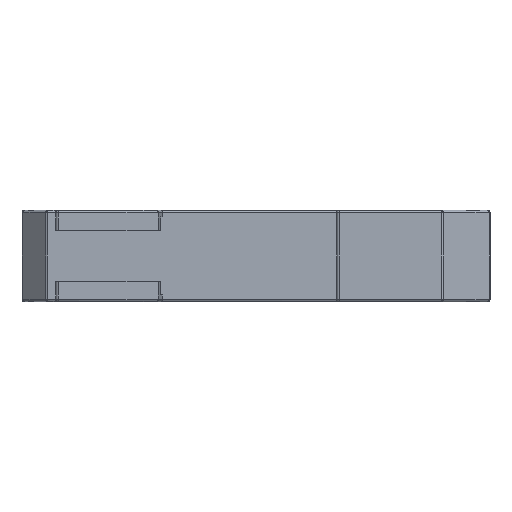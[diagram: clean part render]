
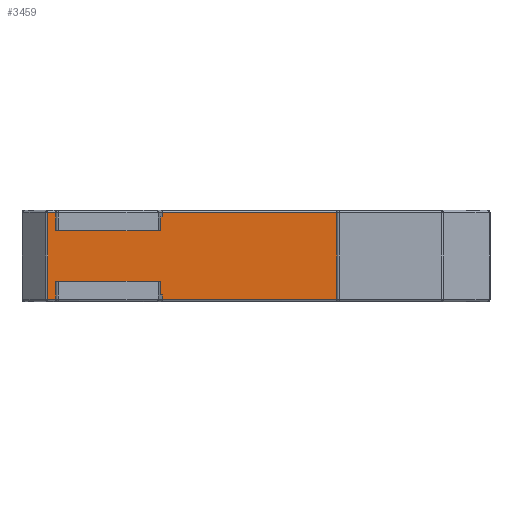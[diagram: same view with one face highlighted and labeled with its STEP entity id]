
A CAD part, front view. The second image highlights one B-rep face of the part: STEP entity #3459.
In plain terms, the highlighted planar face has unit normal (0, -1, 0).
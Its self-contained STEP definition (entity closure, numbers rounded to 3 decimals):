
#338=FACE_OUTER_BOUND('',#569,.T.);
#569=EDGE_LOOP('',(#2825,#2826,#2827,#2828,#2829,#2830,#2831,#2832,#2833,
#2834,#2835,#2836));
#973=LINE('',#5627,#1281);
#975=LINE('',#5639,#1283);
#1051=LINE('',#5860,#1359);
#1054=LINE('',#5864,#1362);
#1055=LINE('',#5867,#1363);
#1069=LINE('',#5899,#1377);
#1070=LINE('',#5901,#1378);
#1071=LINE('',#5903,#1379);
#1072=LINE('',#5905,#1380);
#1073=LINE('',#5907,#1381);
#1074=LINE('',#5909,#1382);
#1075=LINE('',#5910,#1383);
#1281=VECTOR('',#4470,10.);
#1283=VECTOR('',#4486,10.);
#1359=VECTOR('',#4732,10.);
#1362=VECTOR('',#4737,10.);
#1363=VECTOR('',#4742,10.);
#1377=VECTOR('',#4774,10.);
#1378=VECTOR('',#4775,10.);
#1379=VECTOR('',#4776,10.);
#1380=VECTOR('',#4777,10.);
#1381=VECTOR('',#4778,10.);
#1382=VECTOR('',#4779,10.);
#1383=VECTOR('',#4780,10.);
#1617=VERTEX_POINT('',#5624);
#1618=VERTEX_POINT('',#5626);
#1619=VERTEX_POINT('',#5630);
#1621=VERTEX_POINT('',#5638);
#1680=VERTEX_POINT('',#5857);
#1681=VERTEX_POINT('',#5859);
#1690=VERTEX_POINT('',#5898);
#1691=VERTEX_POINT('',#5900);
#1692=VERTEX_POINT('',#5902);
#1693=VERTEX_POINT('',#5904);
#1694=VERTEX_POINT('',#5906);
#1695=VERTEX_POINT('',#5908);
#1964=EDGE_CURVE('',#1617,#1618,#973,.T.);
#1970=EDGE_CURVE('',#1619,#1621,#975,.T.);
#2083=EDGE_CURVE('',#1681,#1680,#1051,.T.);
#2086=EDGE_CURVE('',#1617,#1681,#1054,.T.);
#2087=EDGE_CURVE('',#1680,#1621,#1055,.T.);
#2103=EDGE_CURVE('',#1690,#1619,#1069,.T.);
#2104=EDGE_CURVE('',#1691,#1690,#1070,.T.);
#2105=EDGE_CURVE('',#1691,#1692,#1071,.T.);
#2106=EDGE_CURVE('',#1692,#1693,#1072,.T.);
#2107=EDGE_CURVE('',#1693,#1694,#1073,.T.);
#2108=EDGE_CURVE('',#1695,#1694,#1074,.T.);
#2109=EDGE_CURVE('',#1695,#1618,#1075,.T.);
#2825=ORIENTED_EDGE('',*,*,#2103,.F.);
#2826=ORIENTED_EDGE('',*,*,#2104,.F.);
#2827=ORIENTED_EDGE('',*,*,#2105,.T.);
#2828=ORIENTED_EDGE('',*,*,#2106,.T.);
#2829=ORIENTED_EDGE('',*,*,#2107,.T.);
#2830=ORIENTED_EDGE('',*,*,#2108,.F.);
#2831=ORIENTED_EDGE('',*,*,#2109,.T.);
#2832=ORIENTED_EDGE('',*,*,#1964,.F.);
#2833=ORIENTED_EDGE('',*,*,#2086,.T.);
#2834=ORIENTED_EDGE('',*,*,#2083,.T.);
#2835=ORIENTED_EDGE('',*,*,#2087,.T.);
#2836=ORIENTED_EDGE('',*,*,#1970,.F.);
#3291=PLANE('',#3871);
#3459=ADVANCED_FACE('',(#338),#3291,.T.);
#3871=AXIS2_PLACEMENT_3D('',#5897,#4772,#4773);
#4470=DIRECTION('',(1.,0.,0.));
#4486=DIRECTION('',(1.,0.,0.));
#4732=DIRECTION('',(-1.,0.,0.));
#4737=DIRECTION('',(0.,0.,-1.));
#4742=DIRECTION('',(0.,0.,1.));
#4772=DIRECTION('center_axis',(0.,-1.,0.));
#4773=DIRECTION('ref_axis',(0.,0.,-1.));
#4774=DIRECTION('',(0.,0.,1.));
#4775=DIRECTION('',(-1.,0.,0.));
#4776=DIRECTION('',(0.,0.,1.));
#4777=DIRECTION('',(1.,0.,0.));
#4778=DIRECTION('',(0.,0.,-1.));
#4779=DIRECTION('',(-1.,0.,0.));
#4780=DIRECTION('',(0.,0.,1.));
#5624=CARTESIAN_POINT('',(-3.688,-12.623,17.1));
#5626=CARTESIAN_POINT('',(31.312,-12.623,17.1));
#5627=CARTESIAN_POINT('',(36.812,-12.623,17.1));
#5630=CARTESIAN_POINT('',(-25.778,-12.623,17.1));
#5638=CARTESIAN_POINT('',(-24.188,-12.623,17.1));
#5639=CARTESIAN_POINT('',(36.812,-12.623,17.1));
#5857=CARTESIAN_POINT('',(-24.188,-12.623,16.3));
#5859=CARTESIAN_POINT('',(-3.688,-12.623,16.3));
#5860=CARTESIAN_POINT('',(22.687,-12.623,16.3));
#5864=CARTESIAN_POINT('',(-3.688,-12.623,8.8));
#5867=CARTESIAN_POINT('',(-24.188,-12.623,8.8));
#5897=CARTESIAN_POINT('Origin',(59.312,-12.623,0.));
#5898=CARTESIAN_POINT('',(-25.778,-12.623,0.5));
#5899=CARTESIAN_POINT('',(-25.778,-12.623,4.4));
#5900=CARTESIAN_POINT('',(-24.188,-12.623,0.5));
#5901=CARTESIAN_POINT('',(36.812,-12.623,0.5));
#5902=CARTESIAN_POINT('',(-24.188,-12.623,1.3));
#5903=CARTESIAN_POINT('',(-24.188,-12.623,0.));
#5904=CARTESIAN_POINT('',(-3.688,-12.623,1.3));
#5905=CARTESIAN_POINT('',(22.687,-12.623,1.3));
#5906=CARTESIAN_POINT('',(-3.688,-12.623,0.5));
#5907=CARTESIAN_POINT('',(-3.688,-12.623,0.));
#5908=CARTESIAN_POINT('',(31.312,-12.623,0.5));
#5909=CARTESIAN_POINT('',(36.812,-12.623,0.5));
#5910=CARTESIAN_POINT('',(31.312,-12.623,8.8));
